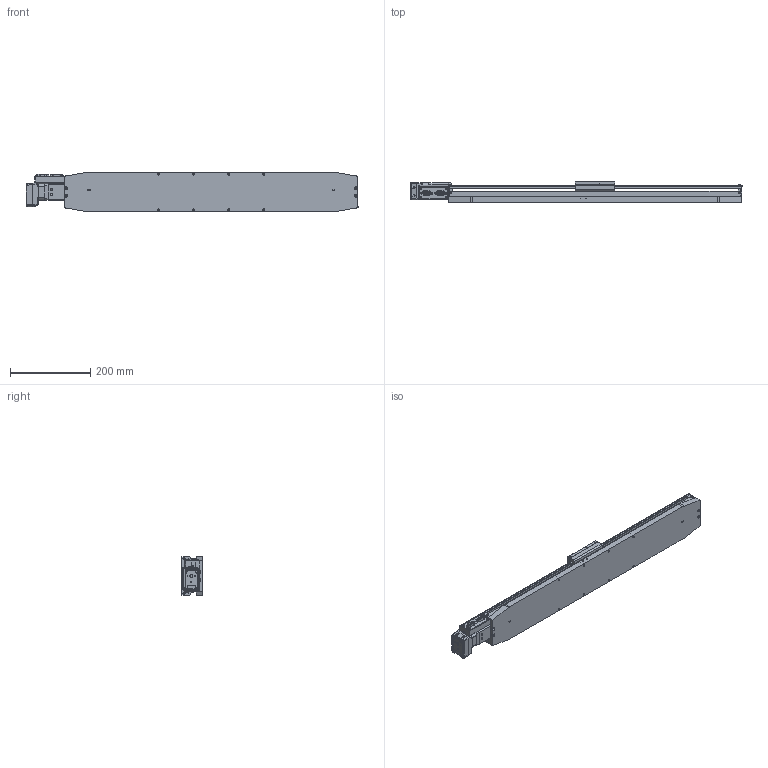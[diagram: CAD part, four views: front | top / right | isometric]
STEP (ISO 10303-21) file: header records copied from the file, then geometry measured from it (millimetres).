
FILE_DESCRIPTION (( 'STEP AP214' ), '1' );
FILE_NAME ('L3500.600-STA_v2_20180822.STEP', '2018-08-22T11:29:45', ( '' ), ( '' ), 'SwSTEP 2.0', 'SolidWorks 2017', '' );
FILE_SCHEMA (( 'AUTOMOTIVE_DESIGN' ));
Length unit declared in the file: millimetre
Products named in the file (1): L3500.600-STA_v2_20180822
Bounding box: 829.13 x 51.67 x 99.06 mm (x, y, z)
Surface area: 548947.7 mm2 (no closed solid volume)
Topology: 0 solids, 37 shells, 3304 faces, 8683 edges, 5564 vertices
Faces by surface type: plane 1364, cylinder 1306, bspline 292, cone 277, torus 65
Entity records: 135420 total; most frequent: CARTESIAN_POINT 55447, ORIENTED_EDGE 16901, DIRECTION 15696, EDGE_CURVE 8462, AXIS2_PLACEMENT_3D 5592, VERTEX_POINT 5564, LINE 4512, VECTOR 4512
